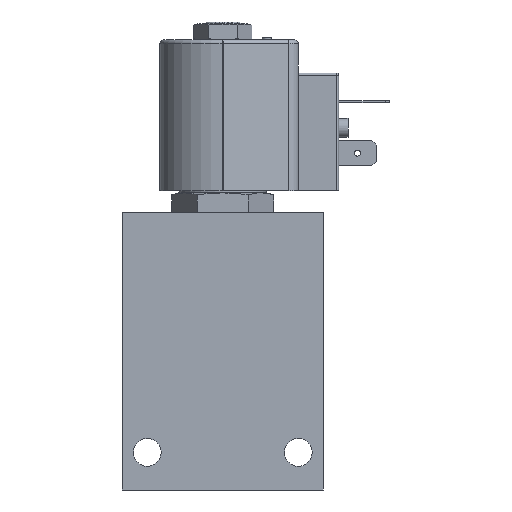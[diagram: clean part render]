
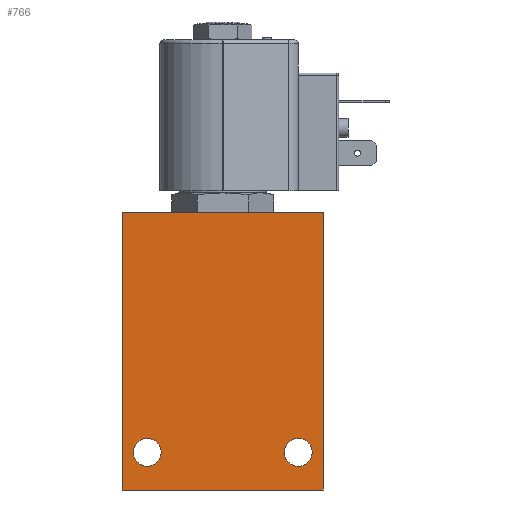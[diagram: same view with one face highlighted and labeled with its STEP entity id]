
A CAD part, front view. The second image highlights one B-rep face of the part: STEP entity #766.
In plain terms, the highlighted planar face has unit normal (0, -1, 0).
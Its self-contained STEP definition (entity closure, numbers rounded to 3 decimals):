
#766 = ADVANCED_FACE( '', ( #1592, #1593, #1594 ), #1595, .T. );
#1592 = FACE_BOUND( '', #2588, .T. );
#1593 = FACE_BOUND( '', #2589, .T. );
#1594 = FACE_OUTER_BOUND( '', #2590, .T. );
#1595 = PLANE( '', #2591 );
#2588 = EDGE_LOOP( '', ( #3964 ) );
#2589 = EDGE_LOOP( '', ( #3965 ) );
#2590 = EDGE_LOOP( '', ( #3966, #3967, #3968, #3969 ) );
#2591 = AXIS2_PLACEMENT_3D( '', #3970, #3971, #3972 );
#3964 = ORIENTED_EDGE( '', *, *, #5489, .F. );
#3965 = ORIENTED_EDGE( '', *, *, #5127, .F. );
#3966 = ORIENTED_EDGE( '', *, *, #5136, .F. );
#3967 = ORIENTED_EDGE( '', *, *, #5490, .F. );
#3968 = ORIENTED_EDGE( '', *, *, #5491, .T. );
#3969 = ORIENTED_EDGE( '', *, *, #5185, .T. );
#3970 = CARTESIAN_POINT( '', ( 25.4, -15.875, 70. ) );
#3971 = DIRECTION( '', ( 0., -1., 0. ) );
#3972 = DIRECTION( '', ( 0., 0., -1. ) );
#5127 = EDGE_CURVE( '', #5869, #5869, #5870, .T. );
#5136 = EDGE_CURVE( '', #5884, #5886, #5887, .T. );
#5185 = EDGE_CURVE( '', #5970, #5886, #5971, .T. );
#5489 = EDGE_CURVE( '', #6450, #6450, #6451, .T. );
#5490 = EDGE_CURVE( '', #6452, #5884, #6453, .T. );
#5491 = EDGE_CURVE( '', #6452, #5970, #6454, .T. );
#5869 = VERTEX_POINT( '', #6992 );
#5870 = CIRCLE( '', #6993, 3.5 );
#5884 = VERTEX_POINT( '', #7013 );
#5886 = VERTEX_POINT( '', #7016 );
#5887 = LINE( '', #7017, #7018 );
#5970 = VERTEX_POINT( '', #7199 );
#5971 = LINE( '', #7200, #7201 );
#6450 = VERTEX_POINT( '', #8339 );
#6451 = CIRCLE( '', #8340, 3.5 );
#6452 = VERTEX_POINT( '', #8341 );
#6453 = LINE( '', #8342, #8343 );
#6454 = LINE( '', #8344, #8345 );
#6992 = CARTESIAN_POINT( '', ( -15.55, -15.875, 9.5 ) );
#6993 = AXIS2_PLACEMENT_3D( '', #9045, #9046, #9047 );
#7013 = CARTESIAN_POINT( '', ( 25.4, -15.875, 0. ) );
#7016 = CARTESIAN_POINT( '', ( -25.4, -15.875, 0. ) );
#7017 = CARTESIAN_POINT( '', ( 25.4, -15.875, 0. ) );
#7018 = VECTOR( '', #9058, 1000. );
#7199 = CARTESIAN_POINT( '', ( -25.4, -15.875, 70. ) );
#7200 = CARTESIAN_POINT( '', ( -25.4, -15.875, 70. ) );
#7201 = VECTOR( '', #9128, 1000. );
#8339 = CARTESIAN_POINT( '', ( 22.55, -15.875, 9.5 ) );
#8340 = AXIS2_PLACEMENT_3D( '', #9518, #9519, #9520 );
#8341 = CARTESIAN_POINT( '', ( 25.4, -15.875, 70. ) );
#8342 = CARTESIAN_POINT( '', ( 25.4, -15.875, 70. ) );
#8343 = VECTOR( '', #9521, 1000. );
#8344 = CARTESIAN_POINT( '', ( 25.4, -15.875, 70. ) );
#8345 = VECTOR( '', #9522, 1000. );
#9045 = CARTESIAN_POINT( '', ( -19.05, -15.875, 9.5 ) );
#9046 = DIRECTION( '', ( 0., -1., 0. ) );
#9047 = DIRECTION( '', ( 1., 0., 0. ) );
#9058 = DIRECTION( '', ( -1., 0., 0. ) );
#9128 = DIRECTION( '', ( 0., 0., -1. ) );
#9518 = CARTESIAN_POINT( '', ( 19.05, -15.875, 9.5 ) );
#9519 = DIRECTION( '', ( 0., -1., 0. ) );
#9520 = DIRECTION( '', ( 1., 0., 0. ) );
#9521 = DIRECTION( '', ( 0., 0., -1. ) );
#9522 = DIRECTION( '', ( -1., 0., 0. ) );
